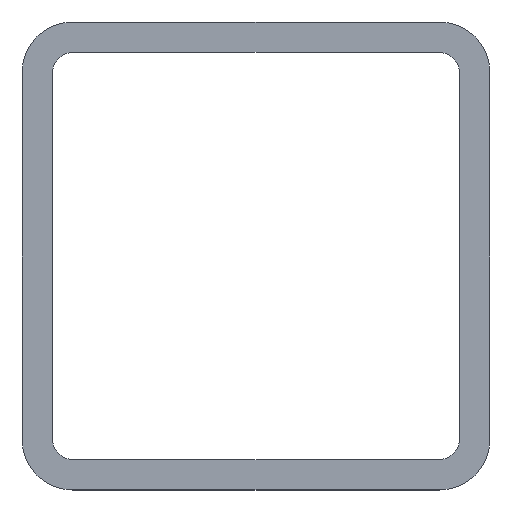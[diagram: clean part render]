
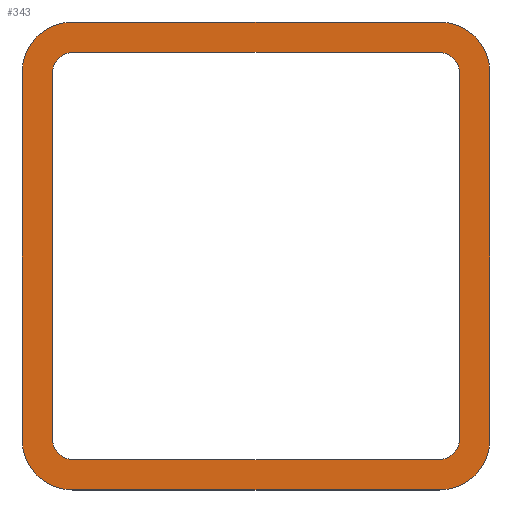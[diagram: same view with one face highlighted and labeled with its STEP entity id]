
A CAD part, top view. The second image highlights one B-rep face of the part: STEP entity #343.
In plain terms, the highlighted planar face has unit normal (0, 0, 1).
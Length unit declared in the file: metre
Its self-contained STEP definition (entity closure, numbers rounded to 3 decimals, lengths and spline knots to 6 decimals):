
#12=CIRCLE('',#359,0.025);
#14=CIRCLE('',#363,0.025);
#16=CIRCLE('',#367,0.025);
#18=CIRCLE('',#371,0.01);
#20=CIRCLE('',#375,0.01);
#22=CIRCLE('',#379,0.01);
#24=CIRCLE('',#383,0.01);
#26=CIRCLE('',#387,0.025);
#116=ORIENTED_EDGE('',*,*,#154,.F.);
#117=ORIENTED_EDGE('',*,*,#158,.T.);
#118=ORIENTED_EDGE('',*,*,#161,.F.);
#119=ORIENTED_EDGE('',*,*,#164,.F.);
#120=ORIENTED_EDGE('',*,*,#167,.F.);
#121=ORIENTED_EDGE('',*,*,#170,.F.);
#122=ORIENTED_EDGE('',*,*,#173,.F.);
#123=ORIENTED_EDGE('',*,*,#176,.T.);
#124=ORIENTED_EDGE('',*,*,#132,.T.);
#125=ORIENTED_EDGE('',*,*,#136,.T.);
#126=ORIENTED_EDGE('',*,*,#139,.T.);
#127=ORIENTED_EDGE('',*,*,#142,.T.);
#128=ORIENTED_EDGE('',*,*,#145,.F.);
#129=ORIENTED_EDGE('',*,*,#148,.T.);
#130=ORIENTED_EDGE('',*,*,#151,.F.);
#131=ORIENTED_EDGE('',*,*,#178,.T.);
#132=EDGE_CURVE('',#180,#181,#212,.T.);
#136=EDGE_CURVE('',#181,#184,#12,.T.);
#139=EDGE_CURVE('',#184,#186,#217,.T.);
#142=EDGE_CURVE('',#186,#188,#14,.T.);
#145=EDGE_CURVE('',#190,#188,#221,.T.);
#148=EDGE_CURVE('',#190,#192,#16,.T.);
#151=EDGE_CURVE('',#194,#192,#225,.T.);
#154=EDGE_CURVE('',#196,#197,#18,.T.);
#158=EDGE_CURVE('',#196,#200,#230,.T.);
#161=EDGE_CURVE('',#202,#200,#20,.T.);
#164=EDGE_CURVE('',#204,#202,#234,.T.);
#167=EDGE_CURVE('',#206,#204,#22,.T.);
#170=EDGE_CURVE('',#208,#206,#238,.T.);
#173=EDGE_CURVE('',#210,#208,#24,.T.);
#176=EDGE_CURVE('',#210,#197,#242,.T.);
#178=EDGE_CURVE('',#194,#180,#26,.T.);
#180=VERTEX_POINT('',#496);
#181=VERTEX_POINT('',#497);
#184=VERTEX_POINT('',#505);
#186=VERTEX_POINT('',#511);
#188=VERTEX_POINT('',#517);
#190=VERTEX_POINT('',#523);
#192=VERTEX_POINT('',#529);
#194=VERTEX_POINT('',#535);
#196=VERTEX_POINT('',#541);
#197=VERTEX_POINT('',#542);
#200=VERTEX_POINT('',#550);
#202=VERTEX_POINT('',#556);
#204=VERTEX_POINT('',#562);
#206=VERTEX_POINT('',#568);
#208=VERTEX_POINT('',#574);
#210=VERTEX_POINT('',#580);
#212=LINE('',#495,#244);
#217=LINE('',#510,#249);
#221=LINE('',#522,#253);
#225=LINE('',#534,#257);
#230=LINE('',#549,#262);
#234=LINE('',#561,#266);
#238=LINE('',#573,#270);
#242=LINE('',#585,#274);
#244=VECTOR('',#395,1.);
#249=VECTOR('',#408,1.);
#253=VECTOR('',#420,1.);
#257=VECTOR('',#432,1.);
#262=VECTOR('',#445,1.);
#266=VECTOR('',#457,1.);
#270=VECTOR('',#469,1.);
#274=VECTOR('',#481,1.);
#294=EDGE_LOOP('',(#116,#117,#118,#119,#120,#121,#122,#123));
#295=EDGE_LOOP('',(#124,#125,#126,#127,#128,#129,#130,#131));
#314=FACE_BOUND('',#294,.T.);
#315=FACE_BOUND('',#295,.T.);
#325=PLANE('',#390);
#343=ADVANCED_FACE('',(#314,#315),#325,.T.);
#359=AXIS2_PLACEMENT_3D('',#504,#401,#402);
#363=AXIS2_PLACEMENT_3D('',#516,#413,#414);
#367=AXIS2_PLACEMENT_3D('',#528,#425,#426);
#371=AXIS2_PLACEMENT_3D('',#540,#437,#438);
#375=AXIS2_PLACEMENT_3D('',#555,#450,#451);
#379=AXIS2_PLACEMENT_3D('',#567,#462,#463);
#383=AXIS2_PLACEMENT_3D('',#579,#474,#475);
#387=AXIS2_PLACEMENT_3D('',#588,#485,#486);
#390=AXIS2_PLACEMENT_3D('',#591,#491,#492);
#395=DIRECTION('',(0.,1.,0.));
#401=DIRECTION('',(0.,0.,1.));
#402=DIRECTION('',(1.,0.,0.));
#408=DIRECTION('',(-1.,0.,0.));
#413=DIRECTION('',(0.,0.,1.));
#414=DIRECTION('',(1.,0.,0.));
#420=DIRECTION('',(0.,1.,0.));
#425=DIRECTION('',(0.,0.,1.));
#426=DIRECTION('',(1.,0.,0.));
#432=DIRECTION('',(-1.,0.,0.));
#437=DIRECTION('',(0.,0.,1.));
#438=DIRECTION('',(1.,0.,0.));
#445=DIRECTION('',(0.,1.,0.));
#450=DIRECTION('',(0.,0.,1.));
#451=DIRECTION('',(1.,0.,0.));
#457=DIRECTION('',(-1.,0.,0.));
#462=DIRECTION('',(0.,0.,1.));
#463=DIRECTION('',(1.,0.,0.));
#469=DIRECTION('',(0.,1.,0.));
#474=DIRECTION('',(0.,0.,1.));
#475=DIRECTION('',(1.,0.,0.));
#481=DIRECTION('',(-1.,0.,0.));
#485=DIRECTION('',(0.,0.,1.));
#486=DIRECTION('',(1.,0.,0.));
#491=DIRECTION('',(0.,0.,1.));
#492=DIRECTION('',(1.,0.,0.));
#495=CARTESIAN_POINT('',(0.11545,0.,0.));
#496=CARTESIAN_POINT('',(0.11545,-0.09045,0.));
#497=CARTESIAN_POINT('',(0.11545,0.09045,0.));
#504=CARTESIAN_POINT('',(0.09045,0.09045,0.));
#505=CARTESIAN_POINT('',(0.09045,0.11545,0.));
#510=CARTESIAN_POINT('',(0.,0.11545,0.));
#511=CARTESIAN_POINT('',(-0.09045,0.11545,0.));
#516=CARTESIAN_POINT('',(-0.09045,0.09045,0.));
#517=CARTESIAN_POINT('',(-0.11545,0.09045,0.));
#522=CARTESIAN_POINT('',(-0.11545,0.,0.));
#523=CARTESIAN_POINT('',(-0.11545,-0.09045,0.));
#528=CARTESIAN_POINT('',(-0.09045,-0.09045,0.));
#529=CARTESIAN_POINT('',(-0.09045,-0.11545,0.));
#534=CARTESIAN_POINT('',(0.,-0.11545,0.));
#535=CARTESIAN_POINT('',(0.09045,-0.11545,0.));
#540=CARTESIAN_POINT('',(-0.09045,-0.09045,0.));
#541=CARTESIAN_POINT('',(-0.10045,-0.09045,0.));
#542=CARTESIAN_POINT('',(-0.09045,-0.10045,0.));
#549=CARTESIAN_POINT('',(-0.10045,0.,0.));
#550=CARTESIAN_POINT('',(-0.10045,0.09045,0.));
#555=CARTESIAN_POINT('',(-0.09045,0.09045,0.));
#556=CARTESIAN_POINT('',(-0.09045,0.10045,0.));
#561=CARTESIAN_POINT('',(0.,0.10045,0.));
#562=CARTESIAN_POINT('',(0.09045,0.10045,0.));
#567=CARTESIAN_POINT('',(0.09045,0.09045,0.));
#568=CARTESIAN_POINT('',(0.10045,0.09045,0.));
#573=CARTESIAN_POINT('',(0.10045,0.,0.));
#574=CARTESIAN_POINT('',(0.10045,-0.09045,0.));
#579=CARTESIAN_POINT('',(0.09045,-0.09045,0.));
#580=CARTESIAN_POINT('',(0.09045,-0.10045,0.));
#585=CARTESIAN_POINT('',(0.,-0.10045,0.));
#588=CARTESIAN_POINT('',(0.09045,-0.09045,0.));
#591=CARTESIAN_POINT('',(0.,0.,0.));
